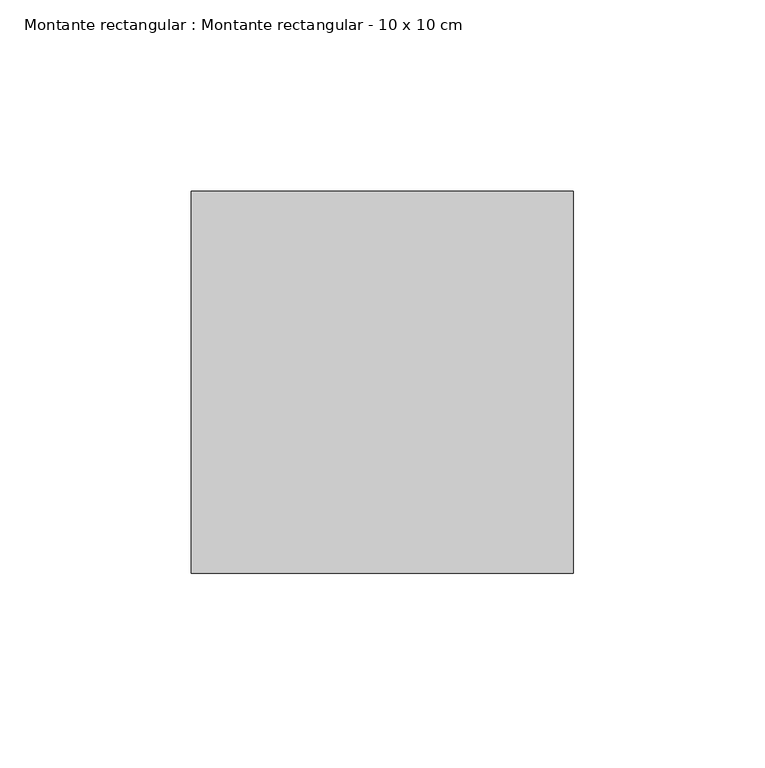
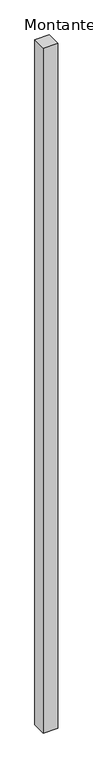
"""IFC4 building model written with IfcOpenShell, lengths in millimetres: member geometry, Montante rectangular : Montante rectangular - 10 x 10 cm."""

from ifc_helpers import new_model, si_unit, frame, origin, place, context, project, spatial, polyline, outline, extrude, source, transform, mapped, element, save


def montante_rectangular_montante_rectangular_10_x_10_cm_d4c933a5(model_context):
    return source(origin(), model_context, "Body", "SweptSolid", [
        extrude(outline(polyline([(-100.0, 50.0), (0.0, 50.0), (0.0, -50.0), (-100.0, -50.0), (-100.0, 50.0)])), frame((0.0, 0.0, -5000.0), z_axis=(0.0, 0.0, 1.0), x_axis=(1.0, 0.0, 0.0)), (0.0, 0.0, 1.0), 5000.0),
    ])


if __name__ == "__main__":
    model = new_model("IFC4")
    model_context = context("Model", 3, world=origin())
    ifc_project = project(units=[si_unit("LENGTHUNIT", "METRE", prefix="MILLI")], contexts=[model_context])
    site = spatial("IfcSite", under=ifc_project)
    building = spatial("IfcBuilding", under=site)
    placement = place(None, origin())
    montante_rectangular_montante_rectangular_10_x_10_cm_shape = montante_rectangular_montante_rectangular_10_x_10_cm_d4c933a5(model_context)
    element("IfcMember", 1, ObjectType="Montante rectangular : Montante rectangular - 10 x 10 cm", at=placement, inside=building, context=model_context, shape_type="MappedRepresentation", body=[
        mapped(montante_rectangular_montante_rectangular_10_x_10_cm_shape, transform((0.0, 0.0, 0.0), x_axis=(1.0, 0.0, 0.0), y_axis=(0.0, 1.0, 0.0), z_axis=(0.0, 0.0, 1.0))),
    ])
    save(model, "model.ifc")
